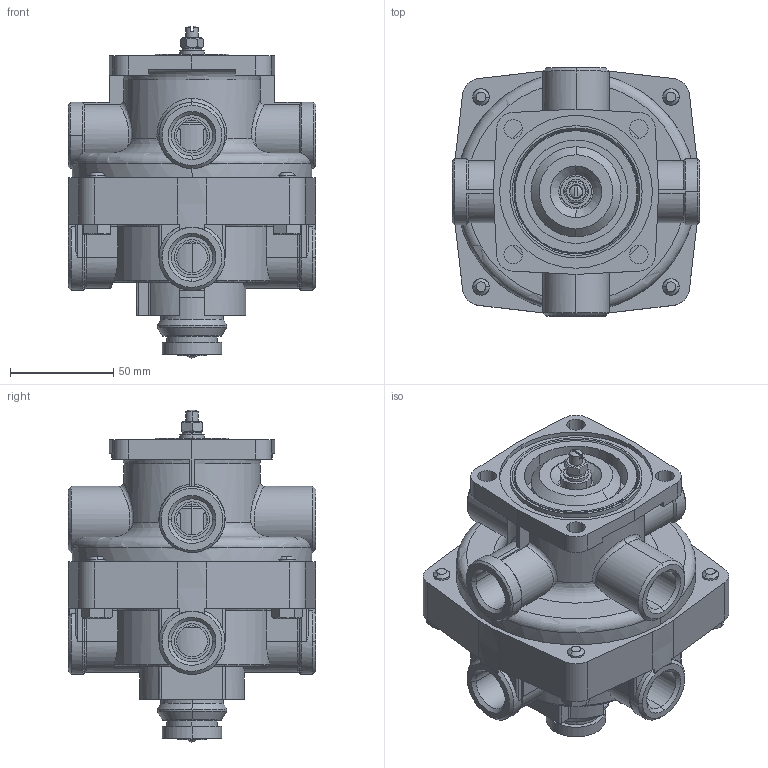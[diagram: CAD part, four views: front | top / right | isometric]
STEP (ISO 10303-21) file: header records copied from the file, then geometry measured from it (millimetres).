
FILE_DESCRIPTION(/* description */ (''),/* implementation_level */ '2;1');
FILE_NAME(/* name */ '8608.35.14.010-10 - Кран тормозной двухсекционный.stp',/* time_stamp */ '2023-10-12T11:40:54+03:00',/* author */ (''),/* organization */ (''),/* preprocessor_version */ 'ST-DEVELOPER v16.7',/* originating_system */ 'SIEMENS PLM Software NX 1899',/* authorisation */ '');
FILE_SCHEMA (('AUTOMOTIVE_DESIGN { 1 0 10303 214 3 1 1 1 }'));
Products named in the file (1): kuzmC478DCB0eqh0
Bounding box: 120 x 120 x 160.7 mm (x, y, z)
Volume: 410733 mm3; surface area: 178872.5 mm2
Topology: 2 solids, 8 shells, 1129 faces, 2763 edges, 1708 vertices
Faces by surface type: cylinder 324, plane 312, cone 122, extrusion 121, revolution 88, bspline 87, torus 59, sphere 16
Entity records: 46515 total; most frequent: CARTESIAN_POINT 23782, ORIENTED_EDGE 5522, DIRECTION 3230, EDGE_CURVE 2761, B_SPLINE_CURVE_WITH_KNOTS 2093, VERTEX_POINT 1708, AXIS2_PLACEMENT_3D 1389, EDGE_LOOP 1237
